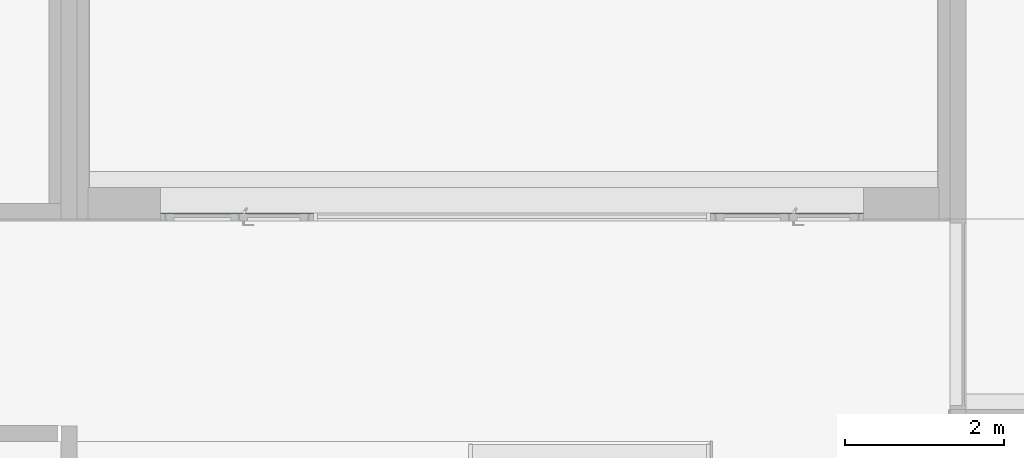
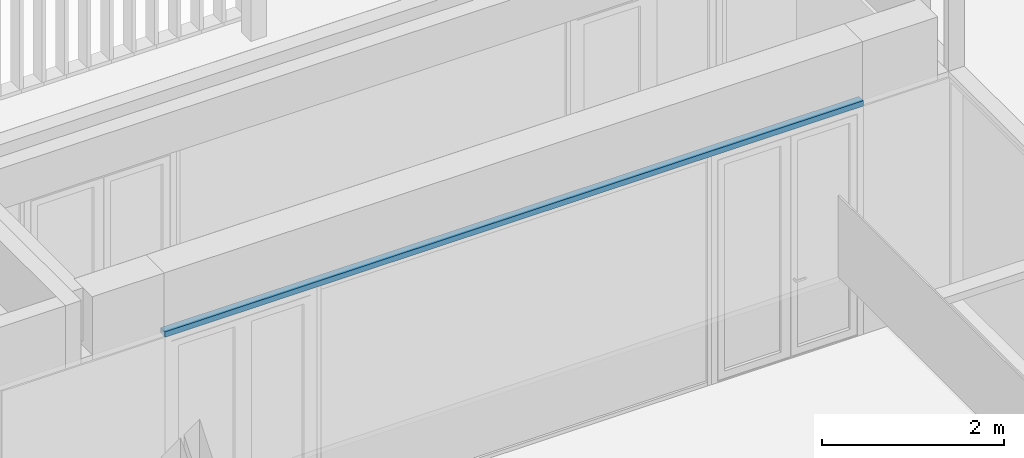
# One storey, part 158 of 240: 1 wall, 3 openings.
"""IFC2X3 building model written with IfcOpenShell, lengths in centimetres."""

from ifc_helpers import new_model, entity, si_unit, converted_unit, derived_unit, direction, frame, frame_2d, origin, origin_2d_with_axis, place, context, subcontext, project, spatial, rectangle, extrude, material, layer, layer_set, layer_usage, type_object, element, save


model = new_model("IFC2X3")

# Units and contexts
model_context = context("Model", 3, precision=0.001, world=origin(), true_north=direction((6.12303176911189e-17, 1.0)))
body_context = subcontext(model_context, "Body", "Model", "MODEL_VIEW")
ifc_project = project(units=[si_unit("LENGTHUNIT", "METRE", prefix="CENTI"), si_unit("AREAUNIT", "SQUARE_METRE"), si_unit("VOLUMEUNIT", "CUBIC_METRE"), converted_unit("PLANEANGLEUNIT", "DEGREE", entity("IfcRatioMeasure", 0.0174532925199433), si_unit("PLANEANGLEUNIT", "RADIAN"), dimensions=[0, 0, 0, 0, 0, 0, 0]), si_unit("MASSUNIT", "GRAM", prefix="KILO"), derived_unit("MASSDENSITYUNIT", [(si_unit("MASSUNIT", "GRAM", prefix="KILO"), 1), (si_unit("LENGTHUNIT", "METRE"), -3)]), si_unit("TIMEUNIT", "SECOND"), si_unit("FREQUENCYUNIT", "HERTZ"), si_unit("THERMODYNAMICTEMPERATUREUNIT", "DEGREE_CELSIUS"), derived_unit("THERMALTRANSMITTANCEUNIT", [(si_unit("MASSUNIT", "GRAM", prefix="KILO"), 1), (si_unit("THERMODYNAMICTEMPERATUREUNIT", "KELVIN"), -1), (si_unit("TIMEUNIT", "SECOND"), -3)]), derived_unit("VOLUMETRICFLOWRATEUNIT", [(si_unit("LENGTHUNIT", "METRE"), 3), (si_unit("TIMEUNIT", "SECOND"), -1)]), si_unit("ELECTRICCURRENTUNIT", "AMPERE"), si_unit("ELECTRICVOLTAGEUNIT", "VOLT"), si_unit("POWERUNIT", "WATT"), si_unit("FORCEUNIT", "NEWTON", prefix="KILO"), si_unit("ILLUMINANCEUNIT", "LUX"), si_unit("LUMINOUSFLUXUNIT", "LUMEN"), si_unit("LUMINOUSINTENSITYUNIT", "CANDELA"), derived_unit("USERDEFINED", [(si_unit("MASSUNIT", "GRAM", prefix="KILO"), -1), (si_unit("LENGTHUNIT", "METRE"), -2), (si_unit("TIMEUNIT", "SECOND"), 3), (si_unit("LUMINOUSFLUXUNIT", "LUMEN"), 1)]), derived_unit("LINEARVELOCITYUNIT", [(si_unit("LENGTHUNIT", "METRE"), 1), (si_unit("TIMEUNIT", "SECOND"), -1)]), si_unit("PRESSUREUNIT", "PASCAL"), derived_unit("USERDEFINED", [(si_unit("LENGTHUNIT", "METRE"), -2), (si_unit("MASSUNIT", "GRAM", prefix="KILO"), 1), (si_unit("TIMEUNIT", "SECOND"), -2)])], contexts=[model_context])

# Site, building, storey
site_placement = place(None, frame((-2781.94577612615, 7442.24238424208, 0.0)))
site = spatial("IfcSite", under=ifc_project, at=site_placement, Name="Default", CompositionType="ELEMENT")
building_placement = place(site_placement, origin())
building = spatial("IfcBuilding", under=site, at=building_placement, CompositionType="ELEMENT")
storey_placement = place(building_placement, origin())
storey = spatial("IfcBuildingStorey", under=building, at=storey_placement, Name="N00 - COO", CompositionType="ELEMENT", Elevation=0.0)

# Wall, openings
ifc_material_1 = material(Name="01 - Enduit/Plâtre")
ifc_layer_1 = layer(ifc_material_1, 1.3)
ifc_material_2 = material(Name="00 - Isolant")
ifc_layer_2 = layer(ifc_material_2, 7.4)
ifc_layer_3 = layer(ifc_material_1, 1.3)
ifc_layer_set = layer_set([ifc_layer_1, ifc_layer_2, ifc_layer_3], Name="Mur de base:06 - cloisons - Ba13 10cm")
ifc_layer_usage = layer_usage(ifc_layer_set, "AXIS2", "NEGATIVE", 5.0)
wall_type = type_object("IfcWallType", Name="Mur de base:06 - cloisons - Ba13 10cm", PredefinedType="STANDARD", material=ifc_layer_set)
wall_placement = place(building_placement, frame((-3777.26283441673, -827.048500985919, 306.0), z_axis=(0.0, 0.0, 1.0), x_axis=(-1.0, 0.0, 0.0)))
wall = element("IfcWallStandardCase", 1, at=wall_placement, inside=storey, type_object=wall_type, material=ifc_layer_usage, Name="Mur de base:06 - cloisons - Ba13 10cm", ObjectType="Mur de base:06 - cloisons - Ba13 10cm", context=body_context, shape_type="SweptSolid", body=[
    extrude(rectangle(XDim=885.494090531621, YDim=10.0000000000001, at=frame_2d((442.74704526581, 0.0), x_axis=(-1.0, 0.0))), origin(), (0.0, 0.0, 1.0), 6.99999999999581),
])
opening_1_placement = place(wall_placement, origin())
element("IfcOpeningElement", 2, at=opening_1_placement, cuts=wall, Name="Mur de base:06 - cloisons - Ba13 10cm", ObjectType="Opening", context=body_context, shape_type="SweptSolid", body=[
    extrude(rectangle(XDim=305.999999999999, YDim=499.999999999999, at=origin_2d_with_axis()), frame((442.73704526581, -20.2399999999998, -153.0), z_axis=(0.0, 1.0, 0.0), x_axis=(0.0, 0.0, 1.0)), (0.0, 0.0, 1.0), 40.48),
])
opening_2_placement = place(wall_placement, frame((-3777.26283441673, -827.048500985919, -306.0), z_axis=(0.0, 0.0, 1.0), x_axis=(-1.0, 0.0, 0.0)))
element("IfcOpeningElement", 3, at=opening_2_placement, cuts=wall, Name="Mur de base:06 - cloisons - Ba13 10cm", ObjectType="Opening", context=body_context, shape_type="SweptSolid", body=[
    extrude(rectangle(XDim=321.0, YDim=192.75704526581, at=frame_2d((0.0, 4.33431068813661e-13), x_axis=(1.0, 0.0))), frame((-4566.37840231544, -821.948500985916, 145.5), z_axis=(0.0, -1.0, 0.0), x_axis=(0.0, 0.0, -1.0)), (0.0, 0.0, 1.0), 61.1877456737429),
])
opening_3_placement = place(wall_placement, frame((-3777.26283441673, -827.048500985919, -306.0), z_axis=(0.0, 0.0, 1.0), x_axis=(-1.0, 0.0, 0.0)))
element("IfcOpeningElement", 4, at=opening_3_placement, cuts=wall, Name="Mur de base:06 - cloisons - Ba13 10cm", ObjectType="Opening", context=body_context, shape_type="SweptSolid", body=[
    extrude(rectangle(XDim=321.0, YDim=192.75704526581, at=frame_2d((0.0, 4.33431068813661e-13), x_axis=(1.0, 0.0))), frame((-3873.62135704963, -821.948500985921, 145.5), z_axis=(0.0, -1.0, 0.0), x_axis=(0.0, 0.0, -1.0)), (0.0, 0.0, 1.0), 61.1877456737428),
])

save(model, "model.ifc")
